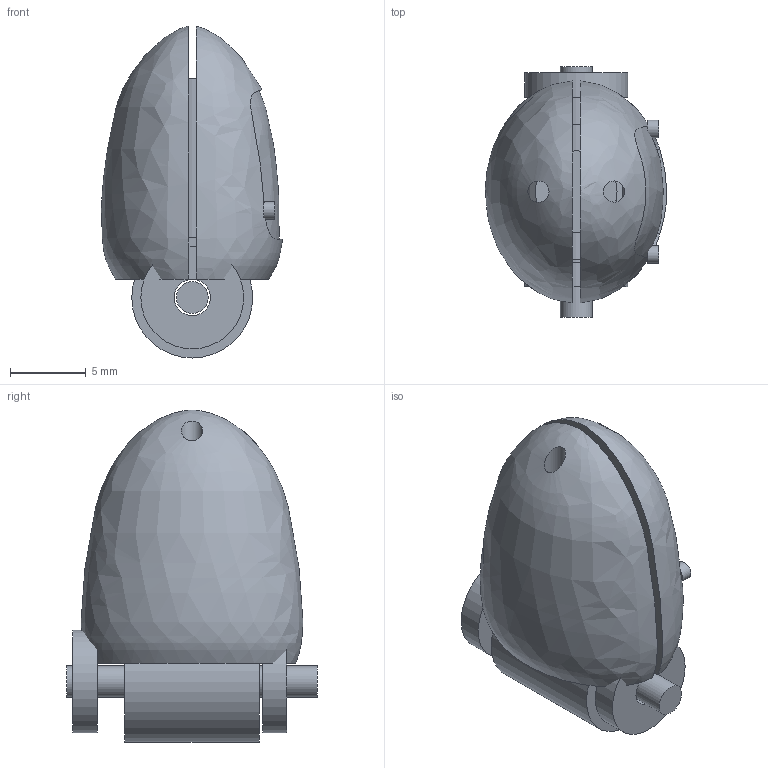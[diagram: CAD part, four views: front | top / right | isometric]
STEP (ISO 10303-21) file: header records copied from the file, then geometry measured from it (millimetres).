
FILE_DESCRIPTION(('FreeCAD Model'),'2;1');
FILE_NAME('Open CASCADE Shape Model','2026-10-05T09:22:55',('Author'),( ''),'Open CASCADE STEP processor 7.8','FreeCAD','Unknown');
FILE_SCHEMA(('AUTOMOTIVE_DESIGN { 1 0 10303 214 1 1 1 1 }'));
Length unit declared in the file: millimetre
Products named in the file (11): Export_index_distal; index_distalDorsalShell; index_distalFlexorShell; index_distalInsetPad; index_distalCore; index_distalHingeBarrel; index_distalCheek-1; index_distalCheek1; index_distalPin; index_distalScrew_-1_0.32; index_distalScrew_1_0.32
Assembly tree (10 placements, depth 2):
  Export_index_distal
    index_distalDorsalShell
    index_distalFlexorShell
    index_distalInsetPad
    index_distalCore
    index_distalHingeBarrel
    index_distalCheek-1
    index_distalCheek1
    index_distalPin
    index_distalScrew_-1_0.32
    index_distalScrew_1_0.32
Bounding box: 11.99 x 16.6 x 21.96 mm (x, y, z)
Volume: 2379.9 mm3; surface area: 2425.9 mm2
Topology: 10 solids, 10 shells, 61 faces, 110 edges, 68 vertices
Faces by surface type: cylinder 26, plane 24, sphere 8, bspline 3
Full cylindrical faces by diameter (mm): 0.464 x2, 1.16 x2, 1.4 x2, 2.1 x1, 2.4 x3, 5.4 x1, 6.8 x2, 8 x1
Entity records: 2794 total; most frequent: CARTESIAN_POINT 1458, DIRECTION 260, ORIENTED_EDGE 212, AXIS2_PLACEMENT_3D 115, EDGE_CURVE 106, FACE_BOUND 74, EDGE_LOOP 74, VERTEX_POINT 68
